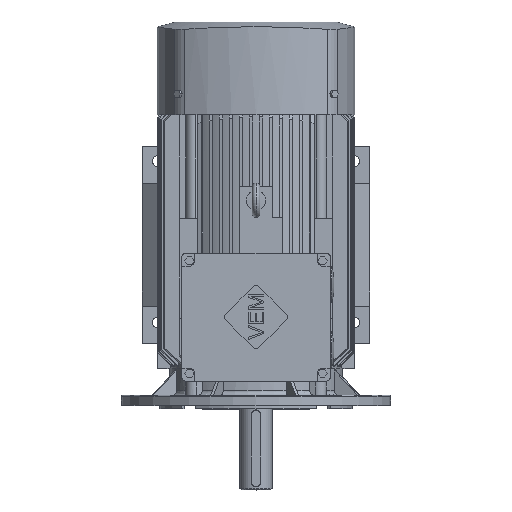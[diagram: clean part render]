
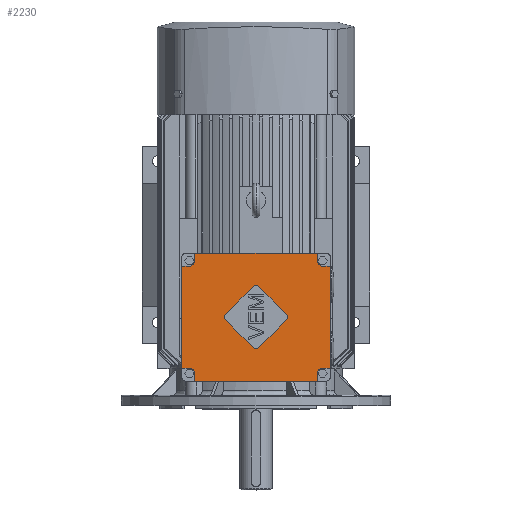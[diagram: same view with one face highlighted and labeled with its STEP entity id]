
A CAD part, top view. The second image highlights one B-rep face of the part: STEP entity #2230.
In plain terms, the highlighted planar face has unit normal (0, 0, 1).
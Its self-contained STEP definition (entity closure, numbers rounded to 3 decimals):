
#2230=ADVANCED_FACE('',(#4533,#4534),#4535,.T.);
#4533=FACE_BOUND('',#6947,.T.);
#4534=FACE_OUTER_BOUND('',#6948,.T.);
#4535=PLANE('',#6949);
#6947=EDGE_LOOP('',(#13914,#13915,#13916,#13917,#13918,#13919,#13920,#13921,#13922,#13923));
#6948=EDGE_LOOP('',(#13924,#13925,#13926,#13927,#13928,#13929,#13930,#13931,#13932,#13933,#13934,#13935,#13936,#13937,#13938,#13939));
#6949=AXIS2_PLACEMENT_3D('',#13940,#13941,#13942);
#13914=ORIENTED_EDGE('',*,*,#16785,.T.);
#13915=ORIENTED_EDGE('',*,*,#16781,.T.);
#13916=ORIENTED_EDGE('',*,*,#16777,.T.);
#13917=ORIENTED_EDGE('',*,*,#16773,.T.);
#13918=ORIENTED_EDGE('',*,*,#16768,.T.);
#13919=ORIENTED_EDGE('',*,*,#16868,.T.);
#13920=ORIENTED_EDGE('',*,*,#16905,.T.);
#13921=ORIENTED_EDGE('',*,*,#16917,.T.);
#13922=ORIENTED_EDGE('',*,*,#16951,.T.);
#13923=ORIENTED_EDGE('',*,*,#16910,.T.);
#13924=ORIENTED_EDGE('',*,*,#17106,.T.);
#13925=ORIENTED_EDGE('',*,*,#17102,.T.);
#13926=ORIENTED_EDGE('',*,*,#17098,.T.);
#13927=ORIENTED_EDGE('',*,*,#17113,.F.);
#13928=ORIENTED_EDGE('',*,*,#17114,.T.);
#13929=ORIENTED_EDGE('',*,*,#17115,.T.);
#13930=ORIENTED_EDGE('',*,*,#17116,.T.);
#13931=ORIENTED_EDGE('',*,*,#17117,.F.);
#13932=ORIENTED_EDGE('',*,*,#17118,.T.);
#13933=ORIENTED_EDGE('',*,*,#17119,.T.);
#13934=ORIENTED_EDGE('',*,*,#17120,.T.);
#13935=ORIENTED_EDGE('',*,*,#17121,.F.);
#13936=ORIENTED_EDGE('',*,*,#17122,.T.);
#13937=ORIENTED_EDGE('',*,*,#17123,.T.);
#13938=ORIENTED_EDGE('',*,*,#17124,.T.);
#13939=ORIENTED_EDGE('',*,*,#17125,.F.);
#13940=CARTESIAN_POINT('',(0.0,66.5,211.0));
#13941=DIRECTION('',(0.0,-0.0,1.0));
#13942=DIRECTION('',(0.0,1.0,0.0));
#16768=EDGE_CURVE('',#20826,#20827,#20828,.T.);
#16773=EDGE_CURVE('',#20835,#20826,#20836,.T.);
#16777=EDGE_CURVE('',#20841,#20835,#20842,.T.);
#16781=EDGE_CURVE('',#20847,#20841,#20848,.T.);
#16785=EDGE_CURVE('',#20853,#20847,#20854,.T.);
#16868=EDGE_CURVE('',#20827,#20982,#20983,.T.);
#16905=EDGE_CURVE('',#20982,#21043,#21044,.T.);
#16910=EDGE_CURVE('',#21049,#20853,#21050,.T.);
#16917=EDGE_CURVE('',#21043,#21059,#21060,.T.);
#16951=EDGE_CURVE('',#21059,#21049,#21101,.T.);
#17098=EDGE_CURVE('',#21311,#21309,#21312,.T.);
#17102=EDGE_CURVE('',#21317,#21311,#21318,.T.);
#17106=EDGE_CURVE('',#21323,#21317,#21324,.T.);
#17113=EDGE_CURVE('',#21333,#21309,#21334,.T.);
#17114=EDGE_CURVE('',#21333,#21335,#21336,.T.);
#17115=EDGE_CURVE('',#21335,#21337,#21338,.T.);
#17116=EDGE_CURVE('',#21337,#21339,#21340,.T.);
#17117=EDGE_CURVE('',#21341,#21339,#21342,.T.);
#17118=EDGE_CURVE('',#21341,#21343,#21344,.T.);
#17119=EDGE_CURVE('',#21343,#21345,#21346,.T.);
#17120=EDGE_CURVE('',#21345,#21347,#21348,.T.);
#17121=EDGE_CURVE('',#21349,#21347,#21350,.T.);
#17122=EDGE_CURVE('',#21349,#21351,#21352,.T.);
#17123=EDGE_CURVE('',#21351,#21353,#21354,.T.);
#17124=EDGE_CURVE('',#21353,#21355,#21356,.T.);
#17125=EDGE_CURVE('',#21323,#21355,#21357,.T.);
#20826=VERTEX_POINT('',#31996);
#20827=VERTEX_POINT('',#31997);
#20828=LINE('',#31998,#31999);
#20835=VERTEX_POINT('',#32009);
#20836=CIRCLE('',#32010,5.0);
#20841=VERTEX_POINT('',#32016);
#20842=LINE('',#32017,#32018);
#20847=VERTEX_POINT('',#32025);
#20848=CIRCLE('',#32026,5.0);
#20853=VERTEX_POINT('',#32032);
#20854=CIRCLE('',#32033,5.0);
#20982=VERTEX_POINT('',#32222);
#20983=CIRCLE('',#32223,5.0);
#21043=VERTEX_POINT('',#32323);
#21044=CIRCLE('',#32324,5.0);
#21049=VERTEX_POINT('',#32335);
#21050=LINE('',#32336,#32337);
#21059=VERTEX_POINT('',#32350);
#21060=LINE('',#32351,#32352);
#21101=CIRCLE('',#32421,5.0);
#21309=VERTEX_POINT('',#32828);
#21311=VERTEX_POINT('',#32831);
#21312=LINE('',#32832,#32833);
#21317=VERTEX_POINT('',#32839);
#21318=CIRCLE('',#32840,7.0);
#21323=VERTEX_POINT('',#32847);
#21324=LINE('',#32848,#32849);
#21333=VERTEX_POINT('',#32861);
#21334=LINE('',#32862,#32863);
#21335=VERTEX_POINT('',#32864);
#21336=LINE('',#32865,#32866);
#21337=VERTEX_POINT('',#32867);
#21338=CIRCLE('',#32868,7.0);
#21339=VERTEX_POINT('',#32869);
#21340=LINE('',#32870,#32871);
#21341=VERTEX_POINT('',#32872);
#21342=LINE('',#32873,#32874);
#21343=VERTEX_POINT('',#32875);
#21344=LINE('',#32876,#32877);
#21345=VERTEX_POINT('',#32878);
#21346=CIRCLE('',#32879,7.0);
#21347=VERTEX_POINT('',#32880);
#21348=LINE('',#32881,#32882);
#21349=VERTEX_POINT('',#32883);
#21350=LINE('',#32884,#32885);
#21351=VERTEX_POINT('',#32886);
#21352=LINE('',#32887,#32888);
#21353=VERTEX_POINT('',#32889);
#21354=CIRCLE('',#32890,7.0);
#21355=VERTEX_POINT('',#32891);
#21356=LINE('',#32892,#32893);
#21357=LINE('',#32894,#32895);
#31996=CARTESIAN_POINT('',(-39.598,70.036,211.0));
#31997=CARTESIAN_POINT('',(-3.536,106.098,211.0));
#31998=CARTESIAN_POINT('',(-30.582,79.051,211.0));
#31999=VECTOR('',#35578,1.0);
#32009=CARTESIAN_POINT('',(-39.598,62.964,211.0));
#32010=AXIS2_PLACEMENT_3D('',#35582,#35583,#35584);
#32016=CARTESIAN_POINT('',(-3.536,26.902,211.0));
#32017=CARTESIAN_POINT('',(-12.551,35.918,211.0));
#32018=VECTOR('',#35589,1.0);
#32025=CARTESIAN_POINT('',(0.,25.438,211.0));
#32026=AXIS2_PLACEMENT_3D('',#35592,#35593,#35594);
#32032=CARTESIAN_POINT('',(3.536,26.902,211.0));
#32033=AXIS2_PLACEMENT_3D('',#35599,#35600,#35601);
#32222=CARTESIAN_POINT('',(0.,107.562,211.0));
#32223=AXIS2_PLACEMENT_3D('',#35666,#35667,#35668);
#32323=CARTESIAN_POINT('',(3.536,106.098,211.0));
#32324=AXIS2_PLACEMENT_3D('',#35701,#35702,#35703);
#32335=CARTESIAN_POINT('',(39.598,62.964,211.0));
#32336=CARTESIAN_POINT('',(30.582,53.949,211.0));
#32337=VECTOR('',#35705,1.0);
#32350=CARTESIAN_POINT('',(39.598,70.036,211.0));
#32351=CARTESIAN_POINT('',(12.551,97.082,211.0));
#32352=VECTOR('',#35710,1.0);
#32421=AXIS2_PLACEMENT_3D('',#35729,#35730,#35731);
#32828=CARTESIAN_POINT('',(79.75,149.75,211.0));
#32831=CARTESIAN_POINT('',(79.75,139.75,211.0));
#32832=CARTESIAN_POINT('',(79.75,105.625,211.0));
#32833=VECTOR('',#35834,1.0);
#32839=CARTESIAN_POINT('',(86.75,132.75,211.0));
#32840=AXIS2_PLACEMENT_3D('',#35839,#35840,#35841);
#32847=CARTESIAN_POINT('',(96.75,132.75,211.0));
#32848=CARTESIAN_POINT('',(45.875,132.75,211.0));
#32849=VECTOR('',#35844,1.0);
#32861=CARTESIAN_POINT('',(-79.75,149.75,211.0));
#32862=CARTESIAN_POINT('',(90.75,149.75,211.0));
#32863=VECTOR('',#35851,1.0);
#32864=CARTESIAN_POINT('',(-79.75,139.75,211.0));
#32865=CARTESIAN_POINT('',(-79.75,105.625,211.0));
#32866=VECTOR('',#35852,1.0);
#32867=CARTESIAN_POINT('',(-86.75,132.75,211.0));
#32868=AXIS2_PLACEMENT_3D('',#35853,#35854,#35855);
#32869=CARTESIAN_POINT('',(-96.75,132.75,211.0));
#32870=CARTESIAN_POINT('',(-45.875,132.75,211.0));
#32871=VECTOR('',#35856,1.0);
#32872=CARTESIAN_POINT('',(-96.75,0.25,211.0));
#32873=CARTESIAN_POINT('',(-96.75,143.75,211.0));
#32874=VECTOR('',#35857,1.0);
#32875=CARTESIAN_POINT('',(-86.75,0.25,211.0));
#32876=CARTESIAN_POINT('',(-45.875,0.25,211.0));
#32877=VECTOR('',#35858,1.0);
#32878=CARTESIAN_POINT('',(-79.75,-6.75,211.0));
#32879=AXIS2_PLACEMENT_3D('',#35859,#35860,#35861);
#32880=CARTESIAN_POINT('',(-79.75,-16.75,211.0));
#32881=CARTESIAN_POINT('',(-79.75,27.375,211.0));
#32882=VECTOR('',#35862,1.0);
#32883=CARTESIAN_POINT('',(79.75,-16.75,211.0));
#32884=CARTESIAN_POINT('',(-90.75,-16.75,211.0));
#32885=VECTOR('',#35863,1.0);
#32886=CARTESIAN_POINT('',(79.75,-6.75,211.0));
#32887=CARTESIAN_POINT('',(79.75,27.375,211.0));
#32888=VECTOR('',#35864,1.0);
#32889=CARTESIAN_POINT('',(86.75,0.25,211.0));
#32890=AXIS2_PLACEMENT_3D('',#35865,#35866,#35867);
#32891=CARTESIAN_POINT('',(96.75,0.25,211.0));
#32892=CARTESIAN_POINT('',(45.875,0.25,211.0));
#32893=VECTOR('',#35868,1.0);
#32894=CARTESIAN_POINT('',(96.75,66.5,211.0));
#32895=VECTOR('',#35869,1.0);
#35578=DIRECTION('',(0.707,0.707,-0.0));
#35582=CARTESIAN_POINT('',(-36.062,66.5,211.0));
#35583=DIRECTION('',(-0.0,-0.0,-1.0));
#35584=DIRECTION('',(0.0,-1.0,0.0));
#35589=DIRECTION('',(-0.707,0.707,0.0));
#35592=CARTESIAN_POINT('',(0.,30.438,211.0));
#35593=DIRECTION('',(-0.0,-0.0,-1.0));
#35594=DIRECTION('',(0.0,-1.0,0.0));
#35599=CARTESIAN_POINT('',(0.,30.438,211.0));
#35600=DIRECTION('',(-0.0,-0.0,-1.0));
#35601=DIRECTION('',(0.0,-1.0,0.0));
#35666=CARTESIAN_POINT('',(0.,102.562,211.0));
#35667=DIRECTION('',(-0.0,-0.0,-1.0));
#35668=DIRECTION('',(0.0,-1.0,0.0));
#35701=CARTESIAN_POINT('',(0.,102.562,211.0));
#35702=DIRECTION('',(-0.0,-0.0,-1.0));
#35703=DIRECTION('',(0.0,-1.0,0.0));
#35705=DIRECTION('',(-0.707,-0.707,0.0));
#35710=DIRECTION('',(0.707,-0.707,0.0));
#35729=CARTESIAN_POINT('',(36.062,66.5,211.0));
#35730=DIRECTION('',(-0.0,-0.0,-1.0));
#35731=DIRECTION('',(0.0,-1.0,0.0));
#35834=DIRECTION('',(0.0,1.0,-0.0));
#35839=CARTESIAN_POINT('',(86.75,139.75,211.0));
#35840=DIRECTION('',(0.0,-0.0,-1.0));
#35841=DIRECTION('',(0.,-1.0,0.0));
#35844=DIRECTION('',(-1.0,0.0,0.0));
#35851=DIRECTION('',(1.0,0.0,-0.0));
#35852=DIRECTION('',(0.0,-1.0,0.0));
#35853=CARTESIAN_POINT('',(-86.75,139.75,211.0));
#35854=DIRECTION('',(-0.0,0.0,-1.0));
#35855=DIRECTION('',(0.,-1.0,0.0));
#35856=DIRECTION('',(-1.0,0.0,0.0));
#35857=DIRECTION('',(0.0,1.0,0.0));
#35858=DIRECTION('',(1.0,0.0,0.0));
#35859=CARTESIAN_POINT('',(-86.75,-6.75,211.0));
#35860=DIRECTION('',(-0.0,0.0,-1.0));
#35861=DIRECTION('',(0.,1.0,0.0));
#35862=DIRECTION('',(0.0,-1.0,0.0));
#35863=DIRECTION('',(-1.0,0.0,0.0));
#35864=DIRECTION('',(0.0,1.0,-0.0));
#35865=CARTESIAN_POINT('',(86.75,-6.75,211.0));
#35866=DIRECTION('',(0.0,0.0,-1.0));
#35867=DIRECTION('',(0.,1.0,0.0));
#35868=DIRECTION('',(1.0,0.0,0.0));
#35869=DIRECTION('',(0.0,-1.0,-0.0));
